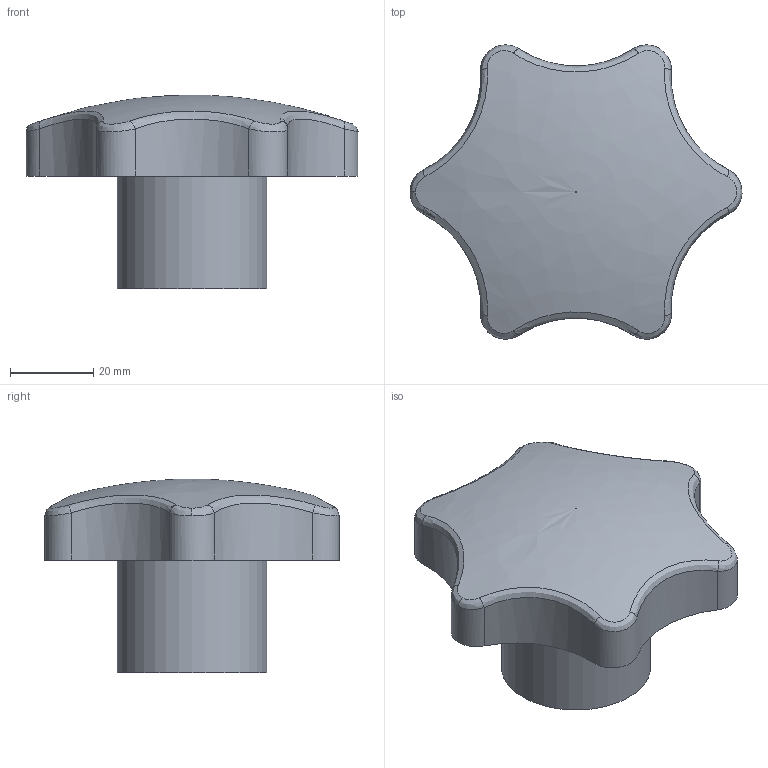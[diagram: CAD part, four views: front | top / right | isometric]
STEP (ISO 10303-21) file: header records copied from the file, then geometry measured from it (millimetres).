
FILE_DESCRIPTION( ('This file contains a STEP AP42 implementation' ,'as created by ZW3D STEP Interface translator.') ,'2;1' );
FILE_NAME( 'Rekojesc gwiazdowa z gwintem wewnetrznym 80.stp' ,'26 320. 746 5', (''), ('ZWCAD Software Co.'), 'Version 1.0', 'ZW3D to STEP translator', '' );
FILE_SCHEMA(('AP242_MANAGED_MODEL_BASED_3D_ENGINEERING_MIM_LF { 1 0 10303 442 1 1 4 }'));
Length unit declared in the file: millimetre
Products named in the file (1): 0
Bounding box: 79.99 x 70.89 x 46.7 mm (x, y, z)
Volume: 88959.2 mm3; surface area: 17428.7 mm2
Topology: 2 solids, 2 shells, 39 faces, 88 edges, 53 vertices
Faces by surface type: cylinder 17, bspline 14, plane 4, cone 4
Full cylindrical faces by diameter (mm): 4.2 x2, 15 x2, 36 x1
Entity records: 2464 total; most frequent: CARTESIAN_POINT 1669, ORIENTED_EDGE 170, DIRECTION 123, EDGE_CURVE 85, VERTEX_POINT 53, AXIS2_PLACEMENT_3D 51, EDGE_LOOP 42, FACE_OUTER_BOUND 39
